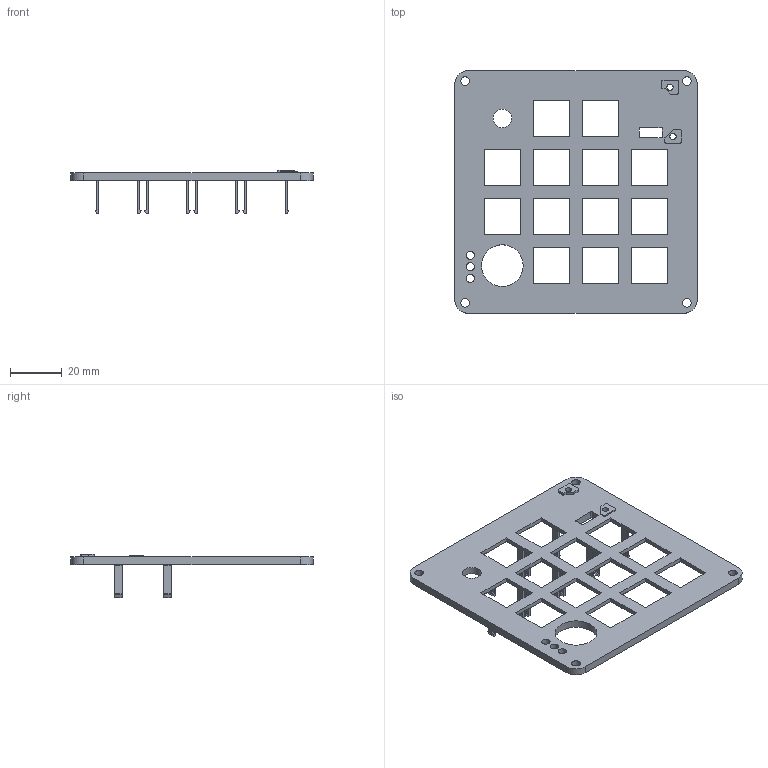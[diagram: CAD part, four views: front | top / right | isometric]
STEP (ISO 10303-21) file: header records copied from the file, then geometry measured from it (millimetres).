
FILE_DESCRIPTION(('Open CASCADE Model'),'2;1');
FILE_NAME('Open CASCADE Shape Model','2026-09-14T20:55:59',('Author'),( 'Open CASCADE'),'Open CASCADE STEP processor 7.9','Open CASCADE 7.9' ,'Unknown');
FILE_SCHEMA(('AUTOMOTIVE_DESIGN { 1 0 10303 214 1 1 1 1 }'));
Length unit declared in the file: millimetre
Products named in the file (1): Open CASCADE STEP translator 7.9 3
Bounding box: 94 x 94 x 16.9 mm (x, y, z)
Volume: 16575.6 mm3; surface area: 17111.9 mm2
Topology: 1 solids, 1 shells, 291 faces, 819 edges, 546 vertices
Faces by surface type: plane 266, cylinder 25
Full cylindrical faces by diameter (mm): 2.4 x2, 3.2 x3, 3.4 x4, 7.2 x1, 16.2 x1
Entity records: 19904 total; most frequent: CARTESIAN_POINT 3679, DIRECTION 2867, LINE 2165, VECTOR 2165, ORIENTED_EDGE 1638, PCURVE 1638, DEFINITIONAL_REPRESENTATION 1638, EDGE_CURVE 819
